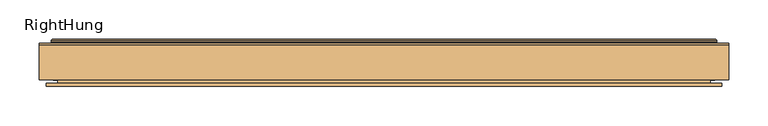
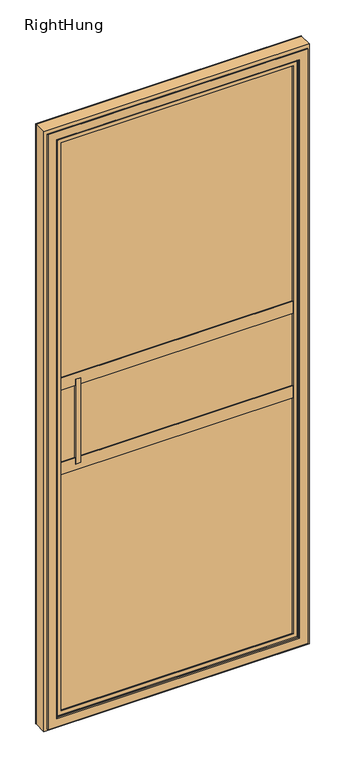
"""IFC4 building model written with IfcOpenShell, lengths in millimetres: door geometry, SMARTS_HeritageDoor : RightHung."""

from ifc_helpers import new_model, si_unit, frame, origin, place, context, project, spatial, polyline, ellipse_curve, outline, extrude, source, transform, mapped, element, save
from ifc_brep_helpers import plane_surface, cylinder_surface, revolved_surface, advanced_brep


def righthung_34a7d7e6(model_context):
    return source(origin(), model_context, "Body", "SolidModel", [
        extrude(outline(polyline([(-396.5, -66.0), (-396.5, -62.0), (396.5, -62.0), (396.5, -66.0), (-396.5, -66.0)])), frame((0.0, 0.0, 853.5), z_axis=(0.0, 0.0, 1.0), x_axis=(1.0, 0.0, 0.0)), (0.0, 0.0, 1.0), 2013.0),
        extrude(outline(polyline([(-396.5, -46.0), (-396.5, -42.0), (396.5, -42.0), (396.5, -46.0), (-396.5, -46.0)])), frame((0.0, 0.0, 853.5), z_axis=(0.0, 0.0, 1.0), x_axis=(1.0, 0.0, 0.0)), (0.0, 0.0, 1.0), 2013.0),
        extrude(outline(polyline([(2866.5, 396.5), (2866.5, -396.5), (853.5, -396.5), (853.5, 396.5), (2866.5, 396.5)]), holes=[polyline([(2856.5, -386.5), (2856.5, 386.5), (863.5, 386.5), (863.5, -386.5), (2856.5, -386.5)])]), frame((0.0, -62.0, 0.0), z_axis=(0.0, 1.0, 0.0), x_axis=(0.0, 0.0, 1.0)), (0.0, 0.0, 1.0), 16.0),
        extrude(outline(polyline([(-334.7619745, -38.3), (-334.7619745, -27.0), (-319.7619745, -27.0), (-319.7619745, -38.3), (-334.7619745, -38.3)])), frame((0.0, 0.0, 1712.0), z_axis=(0.0, 0.0, 1.0), x_axis=(1.0, 0.0, 0.0)), (0.0, 0.0, 1.0), 296.0),
        extrude(outline(polyline([(-400.0, -27.0), (-334.7619745, -27.0), (-334.7619745, -57.9), (-400.0, -57.9), (-400.0, -27.0)])), frame((0.0, 0.0, 1712.0), z_axis=(0.0, 0.0, 1.0), x_axis=(1.0, 0.0, 0.0)), (0.0, 0.0, 1.0), 296.0),
        extrude(outline(polyline([(-319.7619745, -69.6), (-319.7619745, -73.8), (-336.4619745, -73.8), (-336.4619745, -67.9), (-400.2, -67.9), (-400.2, -57.9), (-334.7619745, -57.9), (-334.7619745, -69.6), (-319.7619745, -69.6)])), frame((0.0, 0.0, 1712.0), z_axis=(0.0, 0.0, 1.0), x_axis=(1.0, 0.0, 0.0)), (0.0, 0.0, 1.0), 296.0),
        extrude(outline(polyline([(2870.0052956, 400.0052956), (2870.0052956, -400.0052956), (849.9947044, -400.0052956), (849.9947044, 400.0052956), (2870.0052956, 400.0052956)]), holes=[polyline([(2855.0, -385.0), (2855.0, 385.0), (865.0, 385.0), (865.0, -385.0), (2855.0, -385.0)])]), frame((0.0, -39.3, 0.0), z_axis=(0.0, 1.0, 0.0), x_axis=(0.0, 0.0, 1.0)), (0.0, 0.0, 1.0), 11.3),
        extrude(outline(polyline([(2885.6451958, -415.6451958), (834.3548042, -415.6451958), (834.3548042, 415.6451958), (2885.6451958, 415.6451958), (2885.6451958, -415.6451958)]), holes=[polyline([(850.0, -400.0), (2870.0, -400.0), (2870.0, 400.0), (850.0, 400.0), (850.0, -400.0)])]), frame((0.0, -69.6, 0.0), z_axis=(0.0, 1.0, 0.0), x_axis=(0.0, 0.0, 1.0)), (0.0, 0.0, 1.0), 41.6),
        advanced_brep(
        [(-385.0, -74.8, 2855.0), (-385.0, -74.8, 865.0), (-385.0, -69.6, 865.0), (-385.0, -69.6, 2855.0), (385.0, -74.8, 865.0), (385.0, -69.6, 865.0), (385.0, -74.8, 2855.0), (385.0, -69.6, 2855.0), (-431.2, -76.0, 2901.2), (-431.2, -76.0, 818.8), (-431.2, -80.0, 818.8), (-431.2, -80.0, 2901.2), (431.2, -76.0, 818.8), (431.2, -80.0, 818.8), (431.2, -76.0, 2901.2), (431.2, -80.0, 2901.2), (-416.1467657, -76.0, 2886.1467657), (-416.1467657, -76.0, 833.8532343), (416.1467657, -76.0, 833.8532343), (416.1467657, -76.0, 2886.1467657), (-402.2, -80.0, 847.8), (-402.2, -80.0, 2872.2), (402.2, -80.0, 2872.2), (402.2, -80.0, 847.8), (-416.1467657, -69.6, 2886.1467657), (-416.1467657, -69.6, 833.8532343), (416.1467657, -69.6, 833.8532343), (416.1467657, -69.6, 2886.1467657), (-400.2, -78.0, 2870.2), (-400.2, -78.0, 849.8), (-400.2, -76.8, 849.8), (-400.2, -76.8, 2870.2), (-398.2, -74.8, 851.8), (-398.2, -74.8, 2868.2), (400.2, -78.0, 849.8), (400.2, -76.8, 849.8), (398.2, -74.8, 851.8), (400.2, -78.0, 2870.2), (400.2, -76.8, 2870.2), (398.2, -74.8, 2868.2)],
        [
            (0, 1),
            (1, 2),
            (2, 3),
            (3, 0),
            (1, 4),
            (4, 5),
            (5, 2),
            (4, 6),
            (6, 7),
            (7, 5),
            (6, 0),
            (3, 7),
            (8, 9),
            (9, 10),
            (10, 11),
            (11, 8),
            (9, 12),
            (12, 13),
            (13, 10),
            (12, 14),
            (14, 15),
            (15, 13),
            (8, 14),
            (16, 17),
            (17, 18),
            (18, 19),
            (19, 16),
            (11, 15),
            (20, 21),
            (21, 22),
            (22, 23),
            (23, 20),
            (24, 25),
            (25, 17),
            (16, 24),
            (25, 26),
            (26, 18),
            (26, 27),
            (27, 19),
            (24, 27),
            (28, 29),
            (29, 30),
            (30, 31),
            (31, 28),
            (30, 32, ellipse_curve(frame((-398.2, -76.8, 851.8), z_axis=(0.7071067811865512, 0.0, -0.7071067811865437), x_axis=(-0.7071067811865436, 0.0, -0.7071067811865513)), 2.8284271, 2.0)),
            (32, 33),
            (33, 31, ellipse_curve(frame((-398.2, -76.8, 2868.2), z_axis=(0.7071067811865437, 0.0, 0.7071067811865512), x_axis=(0.7071067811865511, 0.0, -0.7071067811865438)), 2.8284271, 2.0)),
            (29, 34),
            (34, 35),
            (35, 30),
            (35, 36, ellipse_curve(frame((398.2, -76.8, 851.8), z_axis=(0.7071067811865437, 0.0, 0.7071067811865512), x_axis=(0.7071067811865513, 0.0, -0.7071067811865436)), 2.8284271, 2.0)),
            (36, 32),
            (34, 37),
            (37, 38),
            (38, 35),
            (38, 39, ellipse_curve(frame((398.2, -76.8, 2868.2), z_axis=(-0.7071067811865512, 0.0, 0.7071067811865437), x_axis=(0.7071067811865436, 0.0, 0.7071067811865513)), 2.8284271, 2.0)),
            (39, 36),
            (39, 33),
            (37, 28),
            (31, 38),
            (20, 29, ellipse_curve(frame((-402.2, -78.0, 847.8), z_axis=(-0.7071067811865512, 0.0, 0.7071067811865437), x_axis=(0.7071067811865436, 0.0, 0.7071067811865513)), 2.8284271, 2.0)),
            (28, 21, ellipse_curve(frame((-402.2, -78.0, 2872.2), z_axis=(-0.7071067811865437, 0.0, -0.7071067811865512), x_axis=(-0.7071067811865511, 0.0, 0.7071067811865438)), 2.8284271, 2.0)),
            (23, 34, ellipse_curve(frame((402.2, -78.0, 847.8), z_axis=(-0.7071067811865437, 0.0, -0.7071067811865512), x_axis=(-0.7071067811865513, 0.0, 0.7071067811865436)), 2.8284271, 2.0)),
            (22, 37, ellipse_curve(frame((402.2, -78.0, 2872.2), z_axis=(0.7071067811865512, 0.0, -0.7071067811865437), x_axis=(-0.7071067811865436, 0.0, -0.7071067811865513)), 2.8284271, 2.0)),
        ],
        [
            plane_surface(frame((-385.0, -69.6, 2855.0), z_axis=(1.0, 0.0, 0.0), x_axis=(0.0, 0.0, -1.0))),
            plane_surface(frame((-385.0, -69.6, 865.0), z_axis=(0.0, 0.0, 1.0), x_axis=(1.0, 0.0, 0.0))),
            plane_surface(frame((385.0, -69.6, 865.0), z_axis=(-1.0, 0.0, 0.0), x_axis=(0.0, 0.0, 1.0))),
            plane_surface(frame((385.0, -69.6, 2855.0), z_axis=(0.0, 0.0, -1.0), x_axis=(-1.0, 0.0, 0.0))),
            plane_surface(frame((-431.2, -80.0, 2901.2), z_axis=(-1.0, 0.0, 0.0), x_axis=(0.0, 0.0, -1.0))),
            plane_surface(frame((-431.2, -80.0, 818.8), z_axis=(0.0, 0.0, -1.0), x_axis=(1.0, 0.0, 0.0))),
            plane_surface(frame((431.2, -80.0, 818.8), z_axis=(1.0, 0.0, 0.0), x_axis=(0.0, 0.0, 1.0))),
            plane_surface(frame((431.2, -76.0, 2901.2), z_axis=(0.0, 1.0, 0.0), x_axis=(-1.0, 0.0, 0.0))),
            plane_surface(frame((431.2, -80.0, 2901.2), z_axis=(0.0, 0.0, 1.0), x_axis=(-1.0, 0.0, 0.0))),
            plane_surface(frame((402.2, -80.0, 2872.2), z_axis=(0.0, -1.0, 0.0), x_axis=(-1.0, 0.0, 0.0))),
            plane_surface(frame((-416.1467657, -76.0, 2886.1467657), z_axis=(-1.0, 0.0, 0.0), x_axis=(0.0, 0.0, -1.0))),
            plane_surface(frame((-416.1467657, -76.0, 833.8532343), z_axis=(0.0, 0.0, -1.0), x_axis=(1.0, 0.0, 0.0))),
            plane_surface(frame((416.1467657, -76.0, 833.8532343), z_axis=(1.0, 0.0, 0.0), x_axis=(0.0, 0.0, 1.0))),
            plane_surface(frame((416.1467657, -69.6, 2886.1467657), z_axis=(0.0, 1.0, 0.0), x_axis=(-1.0, 0.0, 0.0))),
            plane_surface(frame((416.1467657, -76.0, 2886.1467657), z_axis=(0.0, 0.0, 1.0), x_axis=(-1.0, 0.0, 0.0))),
            plane_surface(frame((-400.2, -76.8, 2870.2), z_axis=(1.0, 0.0, 0.0), x_axis=(0.0, 0.0, -1.0))),
            revolved_surface(polyline([(-400.2, -76.8, 849.8), (-400.2, -76.8, 2870.2)]), (-398.2, -76.8, 2880.0), (0.0, 0.0, -1.0)),
            plane_surface(frame((-400.2, -76.8, 849.8), z_axis=(0.0, 0.0, 1.0), x_axis=(1.0, 0.0, 0.0))),
            revolved_surface(polyline([(400.20000000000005, -76.8, 849.8), (-400.2, -76.8, 849.8)]), (-410.0, -76.8, 851.8), (1.0, 0.0, 0.0)),
            plane_surface(frame((400.2, -76.8, 849.8), z_axis=(-1.0, 0.0, 0.0), x_axis=(0.0, 0.0, 1.0))),
            revolved_surface(polyline([(400.2, -76.8, 2870.2), (400.2, -76.8, 849.8)]), (398.2, -76.8, 840.0), (0.0, 0.0, 1.0)),
            plane_surface(frame((385.0, -74.8, 2855.0), z_axis=(0.0, -1.0, 0.0), x_axis=(-1.0, 0.0, 0.0))),
            plane_surface(frame((400.2, -76.8, 2870.2), z_axis=(0.0, 0.0, -1.0), x_axis=(-1.0, 0.0, 0.0))),
            revolved_surface(polyline([(-400.20000000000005, -76.8, 2870.2), (400.2, -76.8, 2870.2)]), (410.0, -76.8, 2868.2), (-1.0, 0.0, 0.0)),
            cylinder_surface(frame((-402.2, -78.0, 2880.0), z_axis=(0.0, 0.0, 1.0), x_axis=(-1.0, 0.0, 0.0)), 2.0),
            cylinder_surface(frame((-410.0, -78.0, 847.8), z_axis=(-1.0, 0.0, 0.0), x_axis=(0.0, 0.0, -1.0)), 2.0),
            cylinder_surface(frame((402.2, -78.0, 840.0), z_axis=(0.0, 0.0, -1.0), x_axis=(1.0, 0.0, 0.0)), 2.0),
            cylinder_surface(frame((410.0, -78.0, 2872.2), z_axis=(1.0, 0.0, 0.0), x_axis=(0.0, 0.0, 1.0)), 2.0),
        ],
        [
            (0, [[1, 2, 3, 4]]),
            (1, [[5, 6, 7, -2]]),
            (2, [[8, 9, 10, -6]]),
            (3, [[11, -4, 12, -9]]),
            (4, [[13, 14, 15, 16]]),
            (5, [[17, 18, 19, -14]]),
            (6, [[20, 21, 22, -18]]),
            (7, [[-13, 23, -20, -17], [24, 25, 26, 27]]),
            (8, [[-23, -16, 28, -21]]),
            (9, [[-15, -19, -22, -28], [29, 30, 31, 32]]),
            (10, [[33, 34, -24, 35]]),
            (11, [[36, 37, -25, -34]]),
            (12, [[38, 39, -26, -37]]),
            (13, [[-33, 40, -38, -36], [-3, -7, -10, -12]]),
            (14, [[-40, -35, -27, -39]]),
            (15, [[41, 42, 43, 44]]),
            (16, [[-43, 45, 46, 47]]),
            (17, [[48, 49, 50, -42]]),
            (18, [[-50, 51, 52, -45]]),
            (19, [[53, 54, 55, -49]]),
            (20, [[-55, 56, 57, -51]]),
            (21, [[-46, -52, -57, 58], [-1, -11, -8, -5]]),
            (22, [[59, -44, 60, -54]]),
            (23, [[-60, -47, -58, -56]]),
            (24, [[-29, 61, -41, 62]]),
            (25, [[-32, 63, -48, -61]]),
            (26, [[-31, 64, -53, -63]]),
            (27, [[-30, -62, -59, -64]]),
        ],
    ),
        extrude(outline(polyline([(385.0, -38.4690746), (-385.0, -38.4690746), (-385.0, -27.1690746), (385.0, -27.1690746), (385.0, -38.4690746)])), frame((0.0, 0.0, 1986.75), z_axis=(0.0, 0.0, 1.0), x_axis=(1.0, 0.0, 0.0)), (0.0, 0.0, 1.0), 16.15),
        extrude(outline(polyline([(385.0, -38.4690746), (-385.0, -38.4690746), (-385.0, -27.1690746), (385.0, -27.1690746), (385.0, -38.4690746)])), frame((0.0, 0.0, 2014.25), z_axis=(0.0, 0.0, 1.0), x_axis=(1.0, 0.0, 0.0)), (0.0, 0.0, 1.0), 15.0052956),
        extrude(outline(polyline([(385.0, -53.5843537), (-385.0, -53.5843537), (-385.0, -27.1690746), (385.0, -27.1690746), (385.0, -53.5843537)])), frame((0.0, 0.0, 2001.75), z_axis=(0.0, 0.0, 1.0), x_axis=(1.0, 0.0, 0.0)), (0.0, 0.0, 1.0), 12.5),
        extrude(outline(polyline([(-69.9690746, 2029.2552956), (-69.9690746, 2014.25), (-53.5843537, 2014.25), (-53.5843537, 2001.75), (-69.9690746, 2001.75), (-69.9690746, 1986.75), (-73.9687074, 1986.75), (-73.9687074, 2029.2552956), (-69.9690746, 2029.2552956)])), frame((-385.0, 0.0, 0.0), z_axis=(1.0, 0.0, 0.0), x_axis=(0.0, 1.0, 0.0)), (0.0, 0.0, 1.0), 770.0),
        extrude(outline(polyline([(385.0, -38.4690746), (-385.0, -38.4690746), (-385.0, -27.1690746), (385.0, -27.1690746), (385.0, -38.4690746)])), frame((0.0, 0.0, 1690.75), z_axis=(0.0, 0.0, 1.0), x_axis=(1.0, 0.0, 0.0)), (0.0, 0.0, 1.0), 16.15),
        extrude(outline(polyline([(385.0, -38.4690746), (-385.0, -38.4690746), (-385.0, -27.1690746), (385.0, -27.1690746), (385.0, -38.4690746)])), frame((0.0, 0.0, 1718.25), z_axis=(0.0, 0.0, 1.0), x_axis=(1.0, 0.0, 0.0)), (0.0, 0.0, 1.0), 15.0052956),
        extrude(outline(polyline([(385.0, -53.5843537), (-385.0, -53.5843537), (-385.0, -27.1690746), (385.0, -27.1690746), (385.0, -53.5843537)])), frame((0.0, 0.0, 1705.75), z_axis=(0.0, 0.0, 1.0), x_axis=(1.0, 0.0, 0.0)), (0.0, 0.0, 1.0), 12.5),
        extrude(outline(polyline([(-69.9690746, 1733.2552956), (-69.9690746, 1718.25), (-53.5843537, 1718.25), (-53.5843537, 1705.75), (-69.9690746, 1705.75), (-69.9690746, 1690.75), (-73.9687074, 1690.75), (-73.9687074, 1733.2552956), (-69.9690746, 1733.2552956)])), frame((-385.0, 0.0, 0.0), z_axis=(1.0, 0.0, 0.0), x_axis=(0.0, 1.0, 0.0)), (0.0, 0.0, 1.0), 770.0),
        advanced_brep(
        [(407.0, -20.0, 2877.0), (407.0, -20.0, 843.0), (407.0, -24.0, 843.0), (407.0, -24.0, 2877.0), (422.2999818, -24.0, 2892.2999818), (422.2999818, -24.0, 827.7000182), (422.2999818, -27.0000138, 827.7000182), (422.2999818, -27.0000138, 2892.2999818), (424.4999818, -23.5000138, 2894.4999818), (424.4999818, -23.5000138, 825.5000182), (424.4999818, -22.0, 825.5000182), (424.4999818, -22.0, 2894.4999818), (-407.0, -20.0, 843.0), (-407.0, -24.0, 843.0), (-422.2999818, -24.0, 827.7000182), (-422.2999818, -27.0000138, 827.7000182), (-424.4999818, -23.5000138, 825.5000182), (-424.4999818, -22.0, 825.5000182), (-407.0, -20.0, 2877.0), (-407.0, -24.0, 2877.0), (-422.2999818, -24.0, 2892.2999818), (-422.2999818, -27.0000138, 2892.2999818), (-424.4999818, -23.5000138, 2894.4999818), (-424.4999818, -22.0, 2894.4999818), (425.9999818, -25.0000138, 2895.9999818), (425.9999818, -25.0000138, 824.0000182), (440.0, -27.0000138, 2910.0), (440.0, -27.0000138, 810.0), (440.0, -25.0000138, 810.0), (440.0, -25.0000138, 2910.0), (-425.9999818, -25.0000138, 824.0000182), (-440.0, -27.0000138, 810.0), (-440.0, -25.0000138, 810.0), (-425.9999818, -25.0000138, 2895.9999818), (-440.0, -27.0000138, 2910.0), (-440.0, -25.0000138, 2910.0), (422.4999818, -20.0, 2892.4999818), (422.4999818, -20.0, 827.5000182), (-422.4999818, -20.0, 827.5000182), (-422.4999818, -20.0, 2892.4999818)],
        [
            (0, 1),
            (1, 2),
            (2, 3),
            (3, 0),
            (4, 5),
            (5, 6),
            (6, 7),
            (7, 4),
            (8, 9),
            (9, 10),
            (10, 11),
            (11, 8),
            (1, 12),
            (12, 13),
            (13, 2),
            (5, 14),
            (14, 15),
            (15, 6),
            (9, 16),
            (16, 17),
            (17, 10),
            (12, 18),
            (18, 19),
            (19, 13),
            (14, 20),
            (20, 21),
            (21, 15),
            (16, 22),
            (22, 23),
            (23, 17),
            (18, 0),
            (3, 19),
            (4, 20),
            (7, 21),
            (22, 8),
            (11, 23),
            (24, 25),
            (25, 9, ellipse_curve(frame((425.9999818, -23.5000138, 824.0000182), z_axis=(-0.7071067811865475, 0.0, -0.7071067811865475), x_axis=(0.7071067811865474, 0.0, -0.7071067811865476)), 2.1213203, 1.5)),
            (8, 24, ellipse_curve(frame((425.9999818, -23.5000138, 2895.9999818), z_axis=(-0.7071067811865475, 0.0, 0.7071067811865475), x_axis=(-0.7071067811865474, 0.0, -0.7071067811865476)), 2.1213203, 1.5)),
            (26, 27),
            (27, 28),
            (28, 29),
            (29, 26),
            (25, 30),
            (30, 16, ellipse_curve(frame((-425.9999818, -23.5000138, 824.0000182), z_axis=(-0.7071067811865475, 0.0, 0.7071067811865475), x_axis=(-0.7071067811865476, 0.0, -0.7071067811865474)), 2.1213203, 1.5)),
            (27, 31),
            (31, 32),
            (32, 28),
            (30, 33),
            (33, 22, ellipse_curve(frame((-425.9999818, -23.5000138, 2895.9999818), z_axis=(0.7071067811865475, 0.0, 0.7071067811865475), x_axis=(-0.7071067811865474, 0.0, 0.7071067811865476)), 2.1213203, 1.5)),
            (31, 34),
            (34, 35),
            (35, 32),
            (33, 24),
            (35, 29),
            (36, 37),
            (37, 38),
            (38, 39),
            (39, 36),
            (34, 26),
            (10, 37, ellipse_curve(frame((422.4999818, -22.0, 827.5000182), z_axis=(0.7071067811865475, 0.0, 0.7071067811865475), x_axis=(-0.7071067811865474, 0.0, 0.7071067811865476)), 2.8284271, 2.0)),
            (36, 11, ellipse_curve(frame((422.4999818, -22.0, 2892.4999818), z_axis=(0.7071067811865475, 0.0, -0.7071067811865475), x_axis=(0.7071067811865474, 0.0, 0.7071067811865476)), 2.8284271, 2.0)),
            (17, 38, ellipse_curve(frame((-422.4999818, -22.0, 827.5000182), z_axis=(0.7071067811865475, 0.0, -0.7071067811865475), x_axis=(0.7071067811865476, 0.0, 0.7071067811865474)), 2.8284271, 2.0)),
            (23, 39, ellipse_curve(frame((-422.4999818, -22.0, 2892.4999818), z_axis=(-0.7071067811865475, 0.0, -0.7071067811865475), x_axis=(0.7071067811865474, 0.0, -0.7071067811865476)), 2.8284271, 2.0)),
        ],
        [
            plane_surface(frame((407.0, -24.0, 2877.0), z_axis=(-1.0, 0.0, 0.0), x_axis=(0.0, 0.0, -1.0))),
            plane_surface(frame((422.2999818, -27.0000138, 2892.2999818), z_axis=(-1.0, 0.0, 0.0), x_axis=(0.0, 0.0, -1.0))),
            plane_surface(frame((424.4999818, -22.0, 2894.4999818), z_axis=(1.0, 0.0, 0.0), x_axis=(0.0, 0.0, -1.0))),
            plane_surface(frame((407.0, -24.0, 843.0), z_axis=(0.0, 0.0, 1.0), x_axis=(-1.0, 0.0, 0.0))),
            plane_surface(frame((422.2999818, -27.0000138, 827.7000182), z_axis=(0.0, 0.0, 1.0), x_axis=(-1.0, 0.0, 0.0))),
            plane_surface(frame((424.4999818, -22.0, 825.5000182), z_axis=(0.0, 0.0, -1.0), x_axis=(-1.0, 0.0, 0.0))),
            plane_surface(frame((-407.0, -24.0, 843.0), z_axis=(1.0, 0.0, 0.0), x_axis=(0.0, 0.0, 1.0))),
            plane_surface(frame((-422.2999818, -27.0000138, 827.7000182), z_axis=(1.0, 0.0, 0.0), x_axis=(0.0, 0.0, 1.0))),
            plane_surface(frame((-424.4999818, -22.0, 825.5000182), z_axis=(-1.0, 0.0, 0.0), x_axis=(0.0, 0.0, 1.0))),
            plane_surface(frame((-407.0, -24.0, 2877.0), z_axis=(0.0, 0.0, -1.0), x_axis=(1.0, 0.0, 0.0))),
            plane_surface(frame((-422.2999818, -24.0, 2892.2999818), z_axis=(0.0, -1.0, 0.0), x_axis=(1.0, 0.0, 0.0))),
            plane_surface(frame((-422.2999818, -27.0000138, 2892.2999818), z_axis=(0.0, 0.0, -1.0), x_axis=(1.0, 0.0, 0.0))),
            plane_surface(frame((-424.4999818, -22.0, 2894.4999818), z_axis=(0.0, 0.0, 1.0), x_axis=(1.0, 0.0, 0.0))),
            revolved_surface(polyline([(424.4999818, -23.5000138, 822.5000182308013), (424.4999818, -23.5000138, 2897.4999817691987)]), (425.9999818, -23.5000138, 2910.0), (0.0, 0.0, -1.0)),
            plane_surface(frame((440.0, -25.0000138, 2910.0), z_axis=(1.0, 0.0, 0.0), x_axis=(0.0, 0.0, -1.0))),
            revolved_surface(polyline([(-427.4999817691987, -23.5000138, 825.5000182), (427.49998176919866, -23.5000138, 825.5000182)]), (440.0, -23.5000138, 824.0000182), (-1.0, 0.0, 0.0)),
            plane_surface(frame((440.0, -25.0000138, 810.0), z_axis=(0.0, 0.0, -1.0), x_axis=(-1.0, 0.0, 0.0))),
            revolved_surface(polyline([(-424.4999818, -23.5000138, 2897.4999817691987), (-424.4999818, -23.5000138, 822.5000182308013)]), (-425.9999818, -23.5000138, 810.0), (0.0, 0.0, 1.0)),
            plane_surface(frame((-440.0, -25.0000138, 810.0), z_axis=(-1.0, 0.0, 0.0), x_axis=(0.0, 0.0, 1.0))),
            revolved_surface(polyline([(427.4999817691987, -23.5000138, 2894.4999818), (-427.49998176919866, -23.5000138, 2894.4999818)]), (-440.0, -23.5000138, 2895.9999818), (1.0, 0.0, 0.0)),
            plane_surface(frame((-425.9999818, -25.0000138, 2895.9999818), z_axis=(0.0, 1.0, 0.0), x_axis=(1.0, 0.0, 0.0))),
            plane_surface(frame((-407.0, -20.0, 2877.0), z_axis=(0.0, 1.0, 0.0), x_axis=(1.0, 0.0, 0.0))),
            plane_surface(frame((-440.0, -25.0000138, 2910.0), z_axis=(0.0, 0.0, 1.0), x_axis=(1.0, 0.0, 0.0))),
            plane_surface(frame((-440.0, -27.0000138, 2910.0), z_axis=(0.0, -1.0, 0.0), x_axis=(1.0, 0.0, 0.0))),
            cylinder_surface(frame((422.4999818, -22.0, 2910.0), z_axis=(0.0, 0.0, 1.0), x_axis=(-1.0, 0.0, 0.0)), 2.0),
            cylinder_surface(frame((440.0, -22.0, 827.5000182), z_axis=(1.0, 0.0, 0.0), x_axis=(0.0, 0.0, 1.0)), 2.0),
            cylinder_surface(frame((-422.4999818, -22.0, 810.0), z_axis=(0.0, 0.0, -1.0), x_axis=(1.0, 0.0, 0.0)), 2.0),
            cylinder_surface(frame((-440.0, -22.0, 2892.4999818), z_axis=(-1.0, 0.0, 0.0), x_axis=(0.0, 0.0, -1.0)), 2.0),
        ],
        [
            (0, [[1, 2, 3, 4]]),
            (1, [[5, 6, 7, 8]]),
            (2, [[9, 10, 11, 12]]),
            (3, [[13, 14, 15, -2]]),
            (4, [[16, 17, 18, -6]]),
            (5, [[19, 20, 21, -10]]),
            (6, [[22, 23, 24, -14]]),
            (7, [[25, 26, 27, -17]]),
            (8, [[28, 29, 30, -20]]),
            (9, [[31, -4, 32, -23]]),
            (10, [[-5, 33, -25, -16], [-3, -15, -24, -32]]),
            (11, [[-33, -8, 34, -26]]),
            (12, [[35, -12, 36, -29]]),
            (13, [[37, 38, -9, 39]]),
            (14, [[40, 41, 42, 43]]),
            (15, [[44, 45, -19, -38]]),
            (16, [[46, 47, 48, -41]]),
            (17, [[49, 50, -28, -45]]),
            (18, [[51, 52, 53, -47]]),
            (19, [[54, -39, -35, -50]]),
            (20, [[-42, -48, -53, 55], [-37, -54, -49, -44]]),
            (21, [[56, 57, 58, 59], [-1, -31, -22, -13]]),
            (22, [[60, -43, -55, -52]]),
            (23, [[-40, -60, -51, -46], [-7, -18, -27, -34]]),
            (24, [[-11, 61, -56, 62]]),
            (25, [[-21, 63, -57, -61]]),
            (26, [[-30, 64, -58, -63]]),
            (27, [[-36, -62, -59, -64]]),
        ],
    ),
        extrude(outline(polyline([(810.0, 440.0), (2910.0, 440.0), (2910.0, -440.0), (810.0, -440.0), (810.0, 440.0)]), holes=[polyline([(2892.2999818, 422.2999818), (827.7000182, 422.2999818), (827.7000182, -422.2999818), (2892.2999818, -422.2999818), (2892.2999818, 422.2999818)])]), frame((0.0, -72.0000099, 0.0), z_axis=(0.0, 1.0, 0.0), x_axis=(0.0, 0.0, 1.0)), (0.0, 0.0, 1.0), 44.9999962),
    ])


if __name__ == "__main__":
    model = new_model("IFC4")
    model_context = context("Model", 3, world=origin())
    ifc_project = project(units=[si_unit("LENGTHUNIT", "METRE", prefix="MILLI")], contexts=[model_context])
    site = spatial("IfcSite", under=ifc_project)
    building = spatial("IfcBuilding", under=site)
    placement = place(None, origin())
    righthung_shape = righthung_34a7d7e6(model_context)
    element("IfcDoor", 1, ObjectType="SMARTS_HeritageDoor : RightHung", at=placement, inside=building, context=model_context, shape_type="MappedRepresentation", body=[
        mapped(righthung_shape, transform((0.0, 0.0, 0.0), x_axis=(1.0, 0.0, 0.0), y_axis=(0.0, 1.0, 0.0), z_axis=(0.0, 0.0, 1.0))),
    ])
    save(model, "model.ifc")
